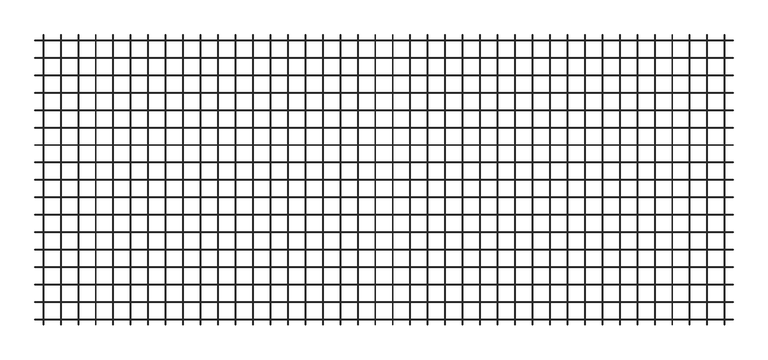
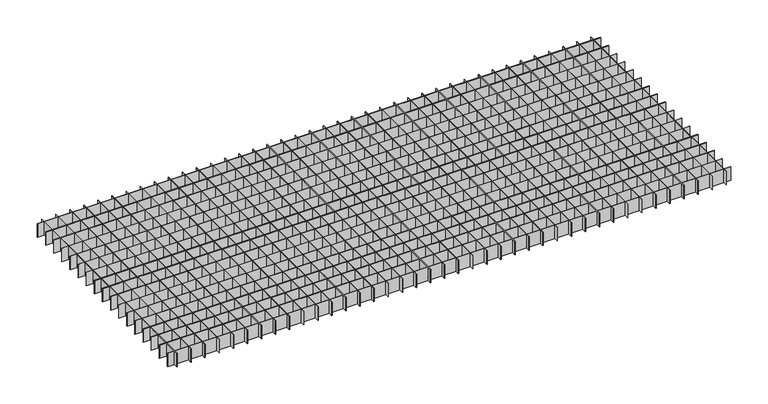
"""IFC4 building model written with IfcOpenShell, lengths in millimetres: proxy geometry, durlum_QUADRA_panel : durlum_QUADRA_width_cut."""

import ifcopenshell
import ifcopenshell.guid

model = None  # the IFC model being written
_history = None  # IfcOwnerHistory: only IFC2X3 demands one
_inside = {}  # id of a spatial element -> (the spatial element, [elements in it])
_under = {}  # id of a project, library or spatial element -> (it, [spatial elements below it])
_declared = {}  # id of a project -> (the project, [libraries it declares])
_typed = {}  # id of a type object -> (the type object, [elements of that type])
_made_of = {}  # id of a material, layer set ... -> (it, [elements and type objects made of it])


def new_model(schema):
    """Start an empty IFC model of exactly this schema.

    Asked for "IFC4X3", IfcOpenShell would pick the latest addendum, in which some entities
    have other attributes; the version numbers below select the first issue.
    IFC2X3 requires an IfcOwnerHistory on every rooted entity: one is made here for all.
    """
    global model, _history
    if schema == "IFC4X3":
        model = ifcopenshell.file(schema_version=(4, 3, 0, 0))
    else:
        model = ifcopenshell.file(schema=schema)
    _inside.clear()
    _under.clear()
    _declared.clear()
    _typed.clear()
    _made_of.clear()
    _history = None
    if model.schema == "IFC2X3":
        org = make("IfcOrganization", Name="unknown")
        user = make(
            "IfcPersonAndOrganization",
            ThePerson=make("IfcPerson", FamilyName="unknown"),
            TheOrganization=org,
        )
        app = make(
            "IfcApplication",
            ApplicationDeveloper=org,
            Version="unknown",
            ApplicationFullName="unknown",
            ApplicationIdentifier="unknown",
        )
        _history = make(
            "IfcOwnerHistory",
            OwningUser=user,
            OwningApplication=app,
            ChangeAction="ADDED",
            CreationDate=0,
        )
    return model


def make(cls, **values):
    """One entity of the class cls with the attributes given. An attribute that is None is left unset."""
    return model.create_entity(
        cls, **{name: value for name, value in values.items() if value is not None}
    )


def rooted(cls, **values):
    """An entity with a GlobalId (a new one), such as an element, a storey or a relation."""
    return make(cls, GlobalId=ifcopenshell.guid.new(), OwnerHistory=_history, **values)


def si_unit(unit_type, name, prefix=None):
    """IfcSIUnit, for example si_unit("LENGTHUNIT", "METRE", prefix="MILLI")."""
    return make("IfcSIUnit", UnitType=unit_type, Prefix=prefix, Name=name)


def assignment(units):
    """IfcUnitAssignment: the units of a project."""
    return None if units is None else make("IfcUnitAssignment", Units=units)


def point(xyz):
    """IfcCartesianPoint."""
    return None if xyz is None else make("IfcCartesianPoint", Coordinates=xyz)


def direction(xyz):
    """IfcDirection."""
    return None if xyz is None else make("IfcDirection", DirectionRatios=xyz)


def frame(location, z_axis=None, x_axis=None):
    """IfcAxis2Placement3D, a coordinate frame: its origin and axes. An axis left out is left unset."""
    return make(
        "IfcAxis2Placement3D",
        Location=point(location),
        Axis=direction(z_axis),
        RefDirection=direction(x_axis),
    )


def origin():
    """The frame at (0, 0, 0) with its axes left unset."""
    return frame((0.0, 0.0, 0.0))


def origin_with_axes():
    """The frame at (0, 0, 0) with the z axis (0, 0, 1) and the x axis (1, 0, 0) written out."""
    return frame((0.0, 0.0, 0.0), z_axis=(0.0, 0.0, 1.0), x_axis=(1.0, 0.0, 0.0))


def place(relative_to, where):
    """IfcLocalPlacement: puts the frame where relative to a parent placement (None: the world)."""
    return make(
        "IfcLocalPlacement", PlacementRelTo=relative_to, RelativePlacement=where
    )


def context(
    kind, dimensions, precision=None, world=None, true_north=None, identifier=None
):
    """IfcGeometricRepresentationContext, for example the 3D "Model" context."""
    return make(
        "IfcGeometricRepresentationContext",
        ContextIdentifier=identifier,
        ContextType=kind,
        CoordinateSpaceDimension=dimensions,
        Precision=precision,
        WorldCoordinateSystem=world,
        TrueNorth=true_north,
    )


def project(units=None, contexts=None):
    """IfcProject with its units and contexts."""
    return rooted(
        "IfcProject",
        Name="project",
        RepresentationContexts=contexts,
        UnitsInContext=assignment(units),
    )


def spatial(cls, under=None, at=None, **own):
    """A site, building, storey or space (cls), placed at a placement, below another one or the project."""
    s = rooted(cls, ObjectPlacement=at, **own)
    if under is not None:
        _under.setdefault(under.id(), (under, []))[1].append(s)
    return s


def polyline(points):
    """IfcPolyline through the points."""
    return make("IfcPolyline", Points=[point(p) for p in points])


def outline(outer, holes=None, kind="AREA"):
    """IfcArbitraryClosedProfileDef: a profile drawn as a closed curve; with holes, ...WithVoids."""
    if holes is None:
        return make("IfcArbitraryClosedProfileDef", ProfileType=kind, OuterCurve=outer)
    return make(
        "IfcArbitraryProfileDefWithVoids",
        ProfileType=kind,
        OuterCurve=outer,
        InnerCurves=holes,
    )


def extrude(swept, where, along, depth):
    """IfcExtrudedAreaSolid: the profile swept, set in the frame where, extruded along a direction by depth."""
    return make(
        "IfcExtrudedAreaSolid",
        SweptArea=swept,
        Position=where,
        ExtrudedDirection=direction(along),
        Depth=depth,
    )


def shape(context_of_items, identifier, shape_type, items):
    """IfcShapeRepresentation: the items that make up one representation, for example the "Body"."""
    return make(
        "IfcShapeRepresentation",
        ContextOfItems=context_of_items,
        RepresentationIdentifier=identifier,
        RepresentationType=shape_type,
        Items=items,
    )


def source(mapping_origin, context_of_items, identifier, shape_type, items):
    """IfcRepresentationMap: a shape defined once, which mapped items show again and again."""
    return make(
        "IfcRepresentationMap",
        MappingOrigin=mapping_origin,
        MappedRepresentation=shape(context_of_items, identifier, shape_type, items),
    )


def transform(
    local_origin,
    x_axis=None,
    y_axis=None,
    z_axis=None,
    scale=None,
    scale2=None,
    scale3=None,
    uniform=True,
):
    """IfcCartesianTransformationOperator3D, or its non-uniform kind. x_axis, y_axis, z_axis: its Axis1, 2, 3."""
    if uniform:
        return make(
            "IfcCartesianTransformationOperator3D",
            Axis1=direction(x_axis),
            Axis2=direction(y_axis),
            LocalOrigin=point(local_origin),
            Scale=scale,
            Axis3=direction(z_axis),
        )
    return make(
        "IfcCartesianTransformationOperator3DnonUniform",
        Axis1=direction(x_axis),
        Axis2=direction(y_axis),
        LocalOrigin=point(local_origin),
        Scale=scale,
        Axis3=direction(z_axis),
        Scale2=scale2,
        Scale3=scale3,
    )


def mapped(mapping_source, mapping_target):
    """IfcMappedItem: shows the shape of a source again, moved by a transform."""
    return make(
        "IfcMappedItem", MappingSource=mapping_source, MappingTarget=mapping_target
    )


def made_of(thing, what):
    """Note that an element or type object is made of a material, layer set ...; save() writes the relation."""
    if what is not None:
        _made_of.setdefault(what.id(), (what, []))[1].append(thing)
    return thing


def element(
    cls,
    number,
    at=None,
    inside=None,
    cuts=None,
    type_object=None,
    material=None,
    context=None,
    identifier="Body",
    shape_type=None,
    held_by="IfcProductDefinitionShape",
    body=None,
    shapes=None,
    **own,
):
    """One element of the class cls, such as IfcWall. Its Tag is "e" and its number.

    at: its placement. inside: the storey or other place that contains it. cuts: it is an
    opening in that element (IfcRelVoidsElement). A single representation is given by context,
    identifier, shape_type and body (its items); several are given by shapes. held_by: the class
    of the entity that holds the representations. save() writes the other relations.
    """
    e = rooted(cls, Tag="e%d" % number, ObjectPlacement=at, **own)
    if body is not None:
        shapes = [shape(context, identifier, shape_type, body)]
    if shapes is not None:
        e.Representation = make(held_by, Representations=shapes)
    if inside is not None:
        _inside.setdefault(inside.id(), (inside, []))[1].append(e)
    if cuts is not None:
        rooted(
            "IfcRelVoidsElement", RelatingBuildingElement=cuts, RelatedOpeningElement=e
        )
    if type_object is not None:
        _typed.setdefault(type_object.id(), (type_object, []))[1].append(e)
    return made_of(e, material)


def aggregate(whole, parts):
    """IfcRelAggregates: a whole, such as a stair, and the parts it consists of."""
    return rooted("IfcRelAggregates", RelatingObject=whole, RelatedObjects=parts)


def save(model, path):
    """Write the relations noted so far, then the file.

    IfcRelAggregates (storeys below a building ...), IfcRelContainedInSpatialStructure (elements
    in a storey), IfcRelDefinesByType, IfcRelAssociatesMaterial and IfcRelDeclares: one each for
    every whole, place, type object, material and project.
    """
    for whole, parts in _under.values():
        aggregate(whole, parts)
    for where, things in _inside.values():
        rooted(
            "IfcRelContainedInSpatialStructure",
            RelatedElements=things,
            RelatingStructure=where,
        )
    for kind, things in _typed.values():
        rooted("IfcRelDefinesByType", RelatedObjects=things, RelatingType=kind)
    for what, things in _made_of.values():
        rooted("IfcRelAssociatesMaterial", RelatedObjects=things, RelatingMaterial=what)
    for by, libraries in _declared.values():
        rooted("IfcRelDeclares", RelatingContext=by, RelatedDefinitions=libraries)
    model.write(path)


def generic_models_90ec37a6(model_context):
    return source(origin(), model_context, "Body", "SweptSolid", [
        extrude(outline(polyline([(554.6, 249.5), (555.4, 249.5), (555.4, -249.5), (554.6, -249.5), (554.6, 249.5)])), origin_with_axes(), (0.0, 0.0, 1.0), 30.0),
        extrude(outline(polyline([(524.6, 249.5), (525.4, 249.5), (525.4, -249.5), (524.6, -249.5), (524.6, 249.5)])), origin_with_axes(), (0.0, 0.0, 1.0), 30.0),
        extrude(outline(polyline([(494.6, 249.5), (495.4, 249.5), (495.4, -249.5), (494.6, -249.5), (494.6, 249.5)])), origin_with_axes(), (0.0, 0.0, 1.0), 30.0),
        extrude(outline(polyline([(464.6, 249.5), (465.4, 249.5), (465.4, -249.5), (464.6, -249.5), (464.6, 249.5)])), origin_with_axes(), (0.0, 0.0, 1.0), 30.0),
        extrude(outline(polyline([(434.6, 249.5), (435.4, 249.5), (435.4, -249.5), (434.6, -249.5), (434.6, 249.5)])), origin_with_axes(), (0.0, 0.0, 1.0), 30.0),
        extrude(outline(polyline([(404.6, 249.5), (405.4, 249.5), (405.4, -249.5), (404.6, -249.5), (404.6, 249.5)])), origin_with_axes(), (0.0, 0.0, 1.0), 30.0),
        extrude(outline(polyline([(374.6, 249.5), (375.4, 249.5), (375.4, -249.5), (374.6, -249.5), (374.6, 249.5)])), origin_with_axes(), (0.0, 0.0, 1.0), 30.0),
        extrude(outline(polyline([(344.6, 249.5), (345.4, 249.5), (345.4, -249.5), (344.6, -249.5), (344.6, 249.5)])), origin_with_axes(), (0.0, 0.0, 1.0), 30.0),
        extrude(outline(polyline([(314.6, 249.5), (315.4, 249.5), (315.4, -249.5), (314.6, -249.5), (314.6, 249.5)])), origin_with_axes(), (0.0, 0.0, 1.0), 30.0),
        extrude(outline(polyline([(284.6, 249.5), (285.4, 249.5), (285.4, -249.5), (284.6, -249.5), (284.6, 249.5)])), origin_with_axes(), (0.0, 0.0, 1.0), 30.0),
        extrude(outline(polyline([(254.6, 249.5), (255.4, 249.5), (255.4, -249.5), (254.6, -249.5), (254.6, 249.5)])), origin_with_axes(), (0.0, 0.0, 1.0), 30.0),
        extrude(outline(polyline([(224.6, 249.5), (225.4, 249.5), (225.4, -249.5), (224.6, -249.5), (224.6, 249.5)])), origin_with_axes(), (0.0, 0.0, 1.0), 30.0),
        extrude(outline(polyline([(194.6, 249.5), (195.4, 249.5), (195.4, -249.5), (194.6, -249.5), (194.6, 249.5)])), origin_with_axes(), (0.0, 0.0, 1.0), 30.0),
        extrude(outline(polyline([(164.6, 249.5), (165.4, 249.5), (165.4, -249.5), (164.6, -249.5), (164.6, 249.5)])), origin_with_axes(), (0.0, 0.0, 1.0), 30.0),
        extrude(outline(polyline([(134.6, 249.5), (135.4, 249.5), (135.4, -249.5), (134.6, -249.5), (134.6, 249.5)])), origin_with_axes(), (0.0, 0.0, 1.0), 30.0),
        extrude(outline(polyline([(104.6, 249.5), (105.4, 249.5), (105.4, -249.5), (104.6, -249.5), (104.6, 249.5)])), origin_with_axes(), (0.0, 0.0, 1.0), 30.0),
        extrude(outline(polyline([(74.6, 249.5), (75.4, 249.5), (75.4, -249.5), (74.6, -249.5), (74.6, 249.5)])), origin_with_axes(), (0.0, 0.0, 1.0), 30.0),
        extrude(outline(polyline([(44.6, 249.5), (45.4, 249.5), (45.4, -249.5), (44.6, -249.5), (44.6, 249.5)])), origin_with_axes(), (0.0, 0.0, 1.0), 30.0),
        extrude(outline(polyline([(14.6, 249.5), (15.4, 249.5), (15.4, -249.5), (14.6, -249.5), (14.6, 249.5)])), origin_with_axes(), (0.0, 0.0, 1.0), 30.0),
        extrude(outline(polyline([(-15.4, 249.5), (-14.6, 249.5), (-14.6, -249.5), (-15.4, -249.5), (-15.4, 249.5)])), origin_with_axes(), (0.0, 0.0, 1.0), 30.0),
        extrude(outline(polyline([(-45.4, 249.5), (-44.6, 249.5), (-44.6, -249.5), (-45.4, -249.5), (-45.4, 249.5)])), origin_with_axes(), (0.0, 0.0, 1.0), 30.0),
        extrude(outline(polyline([(-75.4, 249.5), (-74.6, 249.5), (-74.6, -249.5), (-75.4, -249.5), (-75.4, 249.5)])), origin_with_axes(), (0.0, 0.0, 1.0), 30.0),
        extrude(outline(polyline([(-105.4, 249.5), (-104.6, 249.5), (-104.6, -249.5), (-105.4, -249.5), (-105.4, 249.5)])), origin_with_axes(), (0.0, 0.0, 1.0), 30.0),
        extrude(outline(polyline([(-135.4, 249.5), (-134.6, 249.5), (-134.6, -249.5), (-135.4, -249.5), (-135.4, 249.5)])), origin_with_axes(), (0.0, 0.0, 1.0), 30.0),
        extrude(outline(polyline([(-165.4, 249.5), (-164.6, 249.5), (-164.6, -249.5), (-165.4, -249.5), (-165.4, 249.5)])), origin_with_axes(), (0.0, 0.0, 1.0), 30.0),
        extrude(outline(polyline([(599.5, -209.6), (599.5, -210.4), (-599.5, -210.4), (-599.5, -209.6), (599.5, -209.6)])), origin_with_axes(), (0.0, 0.0, 1.0), 30.0),
        extrude(outline(polyline([(599.5, -179.6), (599.5, -180.4), (-599.5, -180.4), (-599.5, -179.6), (599.5, -179.6)])), origin_with_axes(), (0.0, 0.0, 1.0), 30.0),
        extrude(outline(polyline([(599.5, -149.6), (599.5, -150.4), (-599.5, -150.4), (-599.5, -149.6), (599.5, -149.6)])), origin_with_axes(), (0.0, 0.0, 1.0), 30.0),
        extrude(outline(polyline([(599.5, -119.6), (599.5, -120.4), (-599.5, -120.4), (-599.5, -119.6), (599.5, -119.6)])), origin_with_axes(), (0.0, 0.0, 1.0), 30.0),
        extrude(outline(polyline([(599.5, -89.6), (599.5, -90.4), (-599.5, -90.4), (-599.5, -89.6), (599.5, -89.6)])), origin_with_axes(), (0.0, 0.0, 1.0), 30.0),
        extrude(outline(polyline([(599.5, -59.6), (599.5, -60.4), (-599.5, -60.4), (-599.5, -59.6), (599.5, -59.6)])), origin_with_axes(), (0.0, 0.0, 1.0), 30.0),
        extrude(outline(polyline([(599.5, -29.6), (599.5, -30.4), (-599.5, -30.4), (-599.5, -29.6), (599.5, -29.6)])), origin_with_axes(), (0.0, 0.0, 1.0), 30.0),
        extrude(outline(polyline([(599.5, 0.4), (599.5, -0.4), (-599.5, -0.4), (-599.5, 0.4), (599.5, 0.4)])), origin_with_axes(), (0.0, 0.0, 1.0), 30.0),
        extrude(outline(polyline([(599.5, 30.4), (599.5, 29.6), (-599.5, 29.6), (-599.5, 30.4), (599.5, 30.4)])), origin_with_axes(), (0.0, 0.0, 1.0), 30.0),
        extrude(outline(polyline([(-195.4, 249.5), (-194.6, 249.5), (-194.6, -249.5), (-195.4, -249.5), (-195.4, 249.5)])), origin_with_axes(), (0.0, 0.0, 1.0), 30.0),
        extrude(outline(polyline([(-225.4, 249.5), (-224.6, 249.5), (-224.6, -249.5), (-225.4, -249.5), (-225.4, 249.5)])), origin_with_axes(), (0.0, 0.0, 1.0), 30.0),
        extrude(outline(polyline([(-255.4, 249.5), (-254.6, 249.5), (-254.6, -249.5), (-255.4, -249.5), (-255.4, 249.5)])), origin_with_axes(), (0.0, 0.0, 1.0), 30.0),
        extrude(outline(polyline([(-285.4, 249.5), (-284.6, 249.5), (-284.6, -249.5), (-285.4, -249.5), (-285.4, 249.5)])), origin_with_axes(), (0.0, 0.0, 1.0), 30.0),
        extrude(outline(polyline([(-315.4, 249.5), (-314.6, 249.5), (-314.6, -249.5), (-315.4, -249.5), (-315.4, 249.5)])), origin_with_axes(), (0.0, 0.0, 1.0), 30.0),
        extrude(outline(polyline([(-345.4, 249.5), (-344.6, 249.5), (-344.6, -249.5), (-345.4, -249.5), (-345.4, 249.5)])), origin_with_axes(), (0.0, 0.0, 1.0), 30.0),
        extrude(outline(polyline([(-375.4, 249.5), (-374.6, 249.5), (-374.6, -249.5), (-375.4, -249.5), (-375.4, 249.5)])), origin_with_axes(), (0.0, 0.0, 1.0), 30.0),
        extrude(outline(polyline([(-405.4, 249.5), (-404.6, 249.5), (-404.6, -249.5), (-405.4, -249.5), (-405.4, 249.5)])), origin_with_axes(), (0.0, 0.0, 1.0), 30.0),
        extrude(outline(polyline([(-435.4, 249.5), (-434.6, 249.5), (-434.6, -249.5), (-435.4, -249.5), (-435.4, 249.5)])), origin_with_axes(), (0.0, 0.0, 1.0), 30.0),
        extrude(outline(polyline([(-465.4, 249.5), (-464.6, 249.5), (-464.6, -249.5), (-465.4, -249.5), (-465.4, 249.5)])), origin_with_axes(), (0.0, 0.0, 1.0), 30.0),
        extrude(outline(polyline([(-495.4, 249.5), (-494.6, 249.5), (-494.6, -249.5), (-495.4, -249.5), (-495.4, 249.5)])), origin_with_axes(), (0.0, 0.0, 1.0), 30.0),
        extrude(outline(polyline([(-525.4, 249.5), (-524.6, 249.5), (-524.6, -249.5), (-525.4, -249.5), (-525.4, 249.5)])), origin_with_axes(), (0.0, 0.0, 1.0), 30.0),
        extrude(outline(polyline([(-555.4, 249.5), (-554.6, 249.5), (-554.6, -249.5), (-555.4, -249.5), (-555.4, 249.5)])), origin_with_axes(), (0.0, 0.0, 1.0), 30.0),
        extrude(outline(polyline([(599.5, 60.4), (599.5, 59.6), (-599.5, 59.6), (-599.5, 60.4), (599.5, 60.4)])), origin_with_axes(), (0.0, 0.0, 1.0), 30.0),
        extrude(outline(polyline([(599.5, 90.4), (599.5, 89.6), (-599.5, 89.6), (-599.5, 90.4), (599.5, 90.4)])), origin_with_axes(), (0.0, 0.0, 1.0), 30.0),
        extrude(outline(polyline([(599.5, 120.4), (599.5, 119.6), (-599.5, 119.6), (-599.5, 120.4), (599.5, 120.4)])), origin_with_axes(), (0.0, 0.0, 1.0), 30.0),
        extrude(outline(polyline([(599.5, 150.4), (599.5, 149.6), (-599.5, 149.6), (-599.5, 150.4), (599.5, 150.4)])), origin_with_axes(), (0.0, 0.0, 1.0), 30.0),
        extrude(outline(polyline([(599.5, 180.4), (599.5, 179.6), (-599.5, 179.6), (-599.5, 180.4), (599.5, 180.4)])), origin_with_axes(), (0.0, 0.0, 1.0), 30.0),
        extrude(outline(polyline([(599.5, 210.4), (599.5, 209.6), (-599.5, 209.6), (-599.5, 210.4), (599.5, 210.4)])), origin_with_axes(), (0.0, 0.0, 1.0), 30.0),
        extrude(outline(polyline([(584.6, 249.5), (585.4, 249.5), (585.4, -249.5), (584.6, -249.5), (584.6, 249.5)])), origin_with_axes(), (0.0, 0.0, 1.0), 30.0),
        extrude(outline(polyline([(-585.4, 249.5), (-584.6, 249.5), (-584.6, -249.5), (-585.4, -249.5), (-585.4, 249.5)])), origin_with_axes(), (0.0, 0.0, 1.0), 30.0),
        extrude(outline(polyline([(599.5, -239.6), (599.5, -240.4), (-599.5, -240.4), (-599.5, -239.6), (599.5, -239.6)])), origin_with_axes(), (0.0, 0.0, 1.0), 30.0),
        extrude(outline(polyline([(599.5, 240.4), (599.5, 239.6), (-599.5, 239.6), (-599.5, 240.4), (599.5, 240.4)])), origin_with_axes(), (0.0, 0.0, 1.0), 30.0),
    ])


if __name__ == "__main__":
    model = new_model("IFC4")
    model_context = context("Model", 3, world=origin())
    ifc_project = project(units=[si_unit("LENGTHUNIT", "METRE", prefix="MILLI")], contexts=[model_context])
    site = spatial("IfcSite", under=ifc_project)
    building = spatial("IfcBuilding", under=site)
    placement = place(None, origin())
    generic_models_shape = generic_models_90ec37a6(model_context)
    element("IfcBuildingElementProxy", 1, Name="durlum_QUADRA_panel : durlum_QUADRA_width_cut", ObjectType="durlum_QUADRA_panel : durlum_QUADRA_width_cut", at=placement, inside=building, context=model_context, shape_type="MappedRepresentation", body=[
        mapped(generic_models_shape, transform((0.0, 0.0, 0.0), x_axis=(1.0, 0.0, 0.0), y_axis=(0.0, 1.0, 0.0), z_axis=(0.0, 0.0, 1.0))),
    ])
    save(model, "model.ifc")
